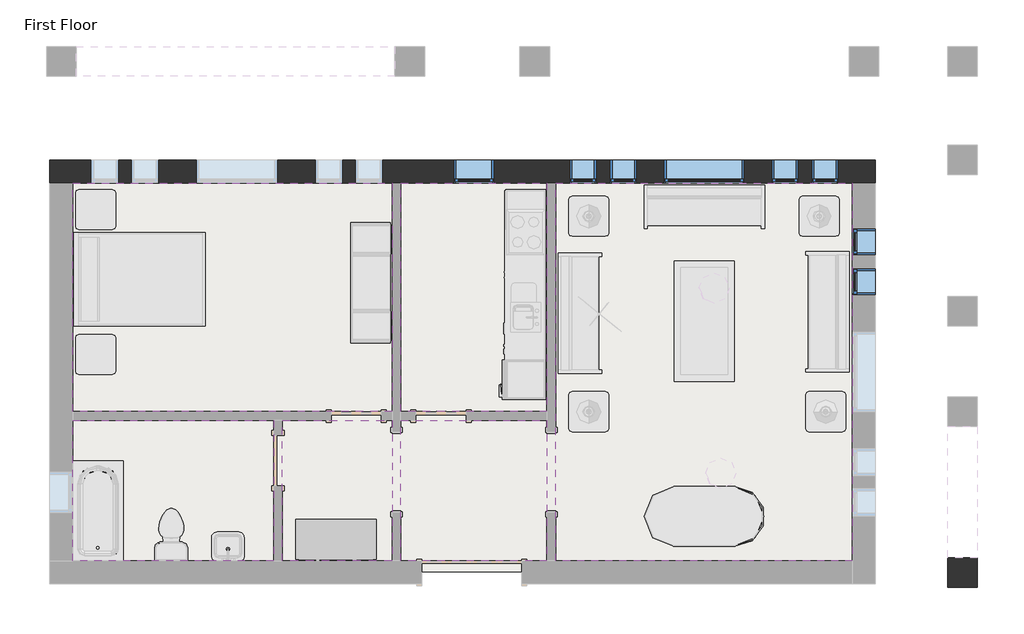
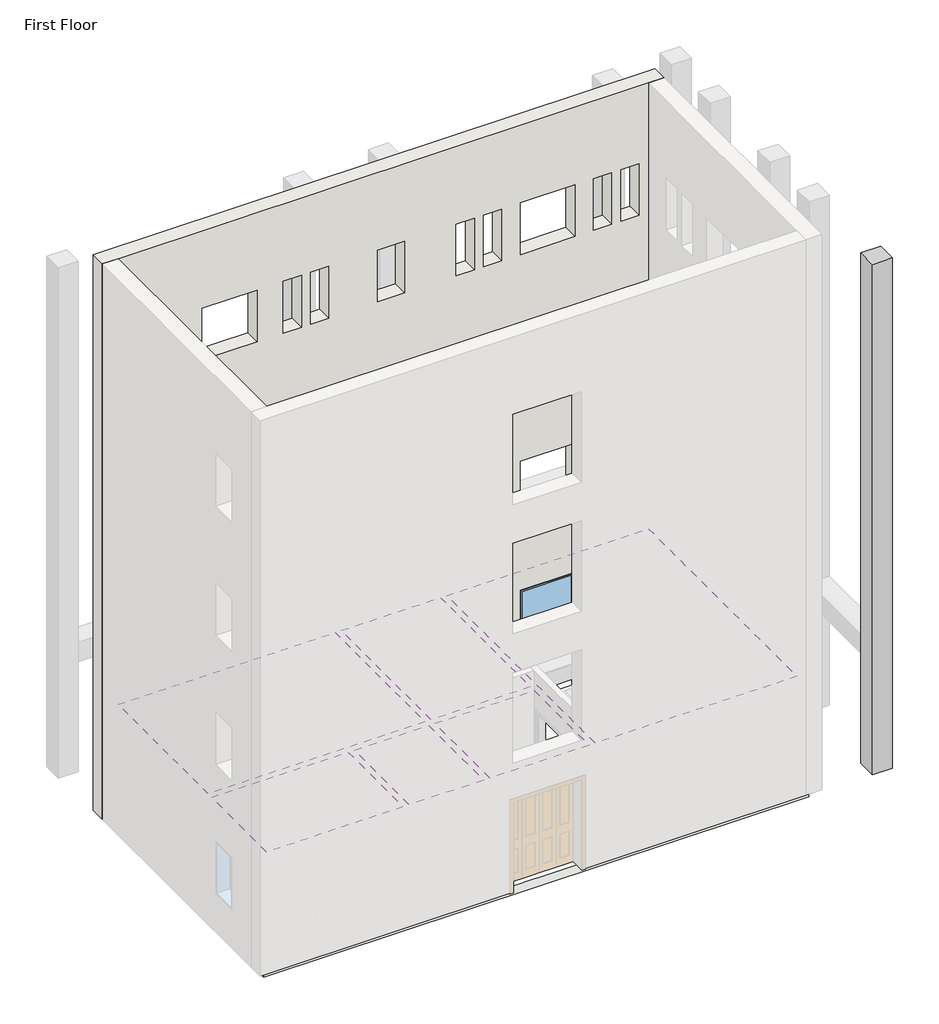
# One storey, part 2 of 3: 8 windows, 6 coverings, 1 column, 1 slab, 1 wall.
"""IFC4 building model written with IfcOpenShell, lengths in millimetres."""

from ifc_helpers import new_model, si_unit, frame, origin, place, context, project, spatial, polyline, outline, extrude, faceted_brep, transform, mapped, element, save
from components import m_fixed_0406_x_1220mm_57fee329, m_fixed_0406_x_1220mm_85c28f40, m_fixed_0610_x_1220mm_2c28ef1d, m_fixed_1220_x_1220mm_e08ff7af

model = new_model("IFC4")

# Units and contexts
model_context = context("Model", 3, world=origin())
ifc_project = project(units=[si_unit("LENGTHUNIT", "METRE", prefix="MILLI")], contexts=[model_context])

# Site, building, storey
site = spatial("IfcSite", under=ifc_project)
building = spatial("IfcBuilding", under=site)
storey = spatial("IfcBuildingStorey", under=building, Name="First Floor", Elevation=0.0)

# Column
placement = place(None, origin())
element("IfcColumn", 1, ObjectType="M_Concrete-Square-Column : 450 x 450mm", at=placement, inside=storey, context=model_context, shape_type="Brep", body=[
    faceted_brep([(-1193.3416203, -3289.8811614, 0.0), (-1193.3416203, -3739.8811614, 0.0), (-1643.3416203, -3739.8811614, 0.0), (-1643.3416203, -3289.8811614, 0.0), (-1193.3416203, -3289.8811614, 12042.0), (-1193.3416203, -3739.8811614, 12042.0), (-1193.3416203, -3739.8811614, 11742.0), (-1193.3416203, -3289.8811614, 11742.0), (-1643.3416203, -3739.8811614, 12042.0), (-1643.3416203, -3739.8811614, 11742.0), (-1643.3416203, -3289.8811614, 12042.0), (-1643.3416203, -3289.8811614, 11742.0)], [[[0, 1, 2, 3]], [[4, 5, 6, 1, 0, 7]], [[5, 8, 9, 2, 1, 6]], [[8, 10, 11, 3, 2, 9]], [[10, 4, 7, 0, 3, 11]], [[4, 10, 8, 5]]]),
])

# Coverings
element("IfcCovering", 2, ObjectType="GWB on Metal stud", at=placement, inside=storey, context=model_context, shape_type="SweptSolid", body=[
    extrude(outline(polyline([(-14935.3416203, 2406.1188386), (-10086.8416203, 2406.1188386), (-10086.8416203, -1070.3811614), (-14935.3416203, -1070.3811614), (-14935.3416203, 2406.1188386)])), frame((0.0, 0.0, 2590.0), z_axis=(0.0, 0.0, 1.0), x_axis=(1.0, 0.0, 0.0)), (0.0, 0.0, 1.0), 57.0),
])
element("IfcCovering", 3, ObjectType="GWB on Metal stud", at=placement, inside=storey, context=model_context, shape_type="SweptSolid", body=[
    extrude(outline(polyline([(-9951.3416203, -1070.3811614), (-9951.3416203, 2406.1188386), (-7733.0916203, 2406.1188386), (-7733.0916203, -1070.3811614), (-9951.3416203, -1070.3811614)])), frame((0.0, 0.0, 2590.0), z_axis=(0.0, 0.0, 1.0), x_axis=(1.0, 0.0, 0.0)), (0.0, 0.0, 1.0), 57.0),
])
element("IfcCovering", 4, ObjectType="GWB on Metal stud", at=placement, inside=storey, context=model_context, shape_type="SweptSolid", body=[
    extrude(outline(polyline([(-7597.5916203, -3339.8811614), (-7597.5916203, 2406.1188386), (-3093.3416203, 2406.1188386), (-3093.3416203, -3339.8811614), (-7597.5916203, -3339.8811614)])), frame((0.0, 0.0, 2590.0), z_axis=(0.0, 0.0, 1.0), x_axis=(1.0, 0.0, 0.0)), (0.0, 0.0, 1.0), 57.0),
])
element("IfcCovering", 5, ObjectType="GWB on Metal stud", at=placement, inside=storey, context=model_context, shape_type="SweptSolid", body=[
    extrude(outline(polyline([(-7733.0916203, -3339.8811614), (-9951.3416203, -3339.8811614), (-9951.3416203, -1205.8811614), (-7733.0916203, -1205.8811614), (-7733.0916203, -3339.8811614)])), frame((0.0, 0.0, 2590.0), z_axis=(0.0, 0.0, 1.0), x_axis=(1.0, 0.0, 0.0)), (0.0, 0.0, 1.0), 57.0),
])
element("IfcCovering", 6, ObjectType="GWB on Metal stud", at=placement, inside=storey, context=model_context, shape_type="SweptSolid", body=[
    extrude(outline(polyline([(-11887.3416203, -1205.8811614), (-11887.3416203, -3339.8811614), (-14935.3416203, -3339.8811614), (-14935.3416203, -1205.8811614), (-11887.3416203, -1205.8811614)])), frame((0.0, 0.0, 2590.0), z_axis=(0.0, 0.0, 1.0), x_axis=(1.0, 0.0, 0.0)), (0.0, 0.0, 1.0), 57.0),
])
element("IfcCovering", 7, ObjectType="GWB on Metal stud", at=placement, inside=storey, context=model_context, shape_type="SweptSolid", body=[
    extrude(outline(polyline([(-10086.8416203, -3339.8811614), (-11751.8416203, -3339.8811614), (-11751.8416203, -1205.8811614), (-10086.8416203, -1205.8811614), (-10086.8416203, -3339.8811614)])), frame((0.0, 0.0, 2590.0), z_axis=(0.0, 0.0, 1.0), x_axis=(1.0, 0.0, 0.0)), (0.0, 0.0, 1.0), 57.0),
])

# Slab
element("IfcSlab", 8, ObjectType="160mm Concrete With 50mm Metal Deck", at=placement, inside=storey, context=model_context, shape_type="SweptSolid", body=[
    extrude(outline(polyline([(-2928.3416203, 2571.1188386), (-2928.3416203, -3504.8811614), (-15100.3416203, -3504.8811614), (-15100.3416203, 2571.1188386), (-2928.3416203, 2571.1188386)])), frame((0.0, 0.0, -210.0), z_axis=(0.0, 0.0, 1.0), x_axis=(1.0, 0.0, 0.0)), (0.0, 0.0, 1.0), 210.0),
])

# Wall
element("IfcWall", 9, ObjectType="Exterior - Brick on Mtl. Stud", at=placement, inside=storey, context=model_context, shape_type="Brep", body=[
    faceted_brep([(-15285.3416203, 2406.1188386, 0.0), (-15100.3416203, 2406.1188386, 0.0), (-14935.3416203, 2406.1188386, 0.0), (-10086.8416203, 2406.1188386, 0.0), (-9951.3416203, 2406.1188386, 0.0), (-7733.0916203, 2406.1188386, 0.0), (-7597.5916203, 2406.1188386, 0.0), (-3093.3416203, 2406.1188386, 0.0), (-2928.3416203, 2406.1188386, 0.0), (-2743.3416203, 2406.1188386, 0.0), (-2743.3416203, 2406.1188386, 13107.0), (-3093.3416203, 2406.1188386, 13107.0), (-14935.3416203, 2406.1188386, 13107.0), (-15285.3416203, 2406.1188386, 13107.0), (-8537.1916203, 2406.1188386, 915.0), (-9147.1916203, 2406.1188386, 915.0), (-9147.1916203, 2406.1188386, 2135.0), (-8537.1916203, 2406.1188386, 2135.0), (-11833.3416203, 2406.1188386, 915.0), (-13053.3416203, 2406.1188386, 915.0), (-13053.3416203, 2406.1188386, 2135.0), (-11833.3416203, 2406.1188386, 2135.0), (-4735.4666203, 2406.1188386, 915.0), (-5955.4666203, 2406.1188386, 915.0), (-5955.4666203, 2406.1188386, 2135.0), (-4735.4666203, 2406.1188386, 2135.0), (-14247.3416203, 2406.1188386, 915.0), (-14653.3416203, 2406.1188386, 915.0), (-14653.3416203, 2406.1188386, 2135.0), (-14247.3416203, 2406.1188386, 2135.0), (-13637.3416203, 2406.1188386, 915.0), (-14043.3416203, 2406.1188386, 915.0), (-14043.3416203, 2406.1188386, 2135.0), (-13637.3416203, 2406.1188386, 2135.0), (-11249.3416203, 2406.1188386, 915.0), (-11249.3416203, 2406.1188386, 2135.0), (-10843.3416203, 2406.1188386, 2135.0), (-10843.3416203, 2406.1188386, 915.0), (-10639.3416203, 2406.1188386, 915.0), (-10639.3416203, 2406.1188386, 2135.0), (-10233.3416203, 2406.1188386, 2135.0), (-10233.3416203, 2406.1188386, 915.0), (-6370.3416203, 2406.1188386, 915.0), (-6776.3416203, 2406.1188386, 915.0), (-6776.3416203, 2406.1188386, 2135.0), (-6370.3416203, 2406.1188386, 2135.0), (-6980.3416203, 2406.1188386, 915.0), (-7386.3416203, 2406.1188386, 915.0), (-7386.3416203, 2406.1188386, 2135.0), (-6980.3416203, 2406.1188386, 2135.0), (-4320.5916203, 2406.1188386, 915.0), (-4320.5916203, 2406.1188386, 2135.0), (-3914.5916203, 2406.1188386, 2135.0), (-3914.5916203, 2406.1188386, 915.0), (-3710.5916203, 2406.1188386, 915.0), (-3710.5916203, 2406.1188386, 2135.0), (-3304.5916203, 2406.1188386, 2135.0), (-3304.5916203, 2406.1188386, 915.0), (-4320.5916203, 2406.1188386, 10059.0), (-4320.5916203, 2406.1188386, 11279.0), (-3914.5916203, 2406.1188386, 11279.0), (-3914.5916203, 2406.1188386, 10059.0), (-3710.5916203, 2406.1188386, 10059.0), (-3710.5916203, 2406.1188386, 11279.0), (-3304.5916203, 2406.1188386, 11279.0), (-3304.5916203, 2406.1188386, 10059.0), (-6370.3416203, 2406.1188386, 10059.0), (-6776.3416203, 2406.1188386, 10059.0), (-6776.3416203, 2406.1188386, 11279.0), (-6370.3416203, 2406.1188386, 11279.0), (-6980.3416203, 2406.1188386, 10059.0), (-7386.3416203, 2406.1188386, 10059.0), (-7386.3416203, 2406.1188386, 11279.0), (-6980.3416203, 2406.1188386, 11279.0), (-11249.3416203, 2406.1188386, 10059.0), (-11249.3416203, 2406.1188386, 11279.0), (-10843.3416203, 2406.1188386, 11279.0), (-10843.3416203, 2406.1188386, 10059.0), (-10639.3416203, 2406.1188386, 10059.0), (-10639.3416203, 2406.1188386, 11279.0), (-10233.3416203, 2406.1188386, 11279.0), (-10233.3416203, 2406.1188386, 10059.0), (-13637.3416203, 2406.1188386, 10059.0), (-14043.3416203, 2406.1188386, 10059.0), (-14043.3416203, 2406.1188386, 11279.0), (-13637.3416203, 2406.1188386, 11279.0), (-14247.3416203, 2406.1188386, 10059.0), (-14653.3416203, 2406.1188386, 10059.0), (-14653.3416203, 2406.1188386, 11279.0), (-14247.3416203, 2406.1188386, 11279.0), (-4735.4666203, 2406.1188386, 10059.0), (-5955.4666203, 2406.1188386, 10059.0), (-5955.4666203, 2406.1188386, 11279.0), (-4735.4666203, 2406.1188386, 11279.0), (-11833.3416203, 2406.1188386, 10059.0), (-13053.3416203, 2406.1188386, 10059.0), (-13053.3416203, 2406.1188386, 11279.0), (-11833.3416203, 2406.1188386, 11279.0), (-8537.1916203, 2406.1188386, 10059.0), (-9147.1916203, 2406.1188386, 10059.0), (-9147.1916203, 2406.1188386, 11279.0), (-8537.1916203, 2406.1188386, 11279.0), (-4320.5916203, 2406.1188386, 3963.0), (-4320.5916203, 2406.1188386, 5183.0), (-3914.5916203, 2406.1188386, 5183.0), (-3914.5916203, 2406.1188386, 3963.0), (-3710.5916203, 2406.1188386, 3963.0), (-3710.5916203, 2406.1188386, 5183.0), (-3304.5916203, 2406.1188386, 5183.0), (-3304.5916203, 2406.1188386, 3963.0), (-6370.3416203, 2406.1188386, 3963.0), (-6776.3416203, 2406.1188386, 3963.0), (-6776.3416203, 2406.1188386, 5183.0), (-6370.3416203, 2406.1188386, 5183.0), (-6980.3416203, 2406.1188386, 3963.0), (-7386.3416203, 2406.1188386, 3963.0), (-7386.3416203, 2406.1188386, 5183.0), (-6980.3416203, 2406.1188386, 5183.0), (-11249.3416203, 2406.1188386, 3963.0), (-11249.3416203, 2406.1188386, 5183.0), (-10843.3416203, 2406.1188386, 5183.0), (-10843.3416203, 2406.1188386, 3963.0), (-10639.3416203, 2406.1188386, 3963.0), (-10639.3416203, 2406.1188386, 5183.0), (-10233.3416203, 2406.1188386, 5183.0), (-10233.3416203, 2406.1188386, 3963.0), (-13637.3416203, 2406.1188386, 3963.0), (-14043.3416203, 2406.1188386, 3963.0), (-14043.3416203, 2406.1188386, 5183.0), (-13637.3416203, 2406.1188386, 5183.0), (-14247.3416203, 2406.1188386, 3963.0), (-14653.3416203, 2406.1188386, 3963.0), (-14653.3416203, 2406.1188386, 5183.0), (-14247.3416203, 2406.1188386, 5183.0), (-4735.4666203, 2406.1188386, 3963.0), (-5955.4666203, 2406.1188386, 3963.0), (-5955.4666203, 2406.1188386, 5183.0), (-4735.4666203, 2406.1188386, 5183.0), (-11833.3416203, 2406.1188386, 3963.0), (-13053.3416203, 2406.1188386, 3963.0), (-13053.3416203, 2406.1188386, 5183.0), (-11833.3416203, 2406.1188386, 5183.0), (-8537.1916203, 2406.1188386, 3963.0), (-9147.1916203, 2406.1188386, 3963.0), (-9147.1916203, 2406.1188386, 5183.0), (-8537.1916203, 2406.1188386, 5183.0), (-4320.5916203, 2406.1188386, 7011.0), (-4320.5916203, 2406.1188386, 8231.0), (-3914.5916203, 2406.1188386, 8231.0), (-3914.5916203, 2406.1188386, 7011.0), (-3710.5916203, 2406.1188386, 7011.0), (-3710.5916203, 2406.1188386, 8231.0), (-3304.5916203, 2406.1188386, 8231.0), (-3304.5916203, 2406.1188386, 7011.0), (-6370.3416203, 2406.1188386, 7011.0), (-6776.3416203, 2406.1188386, 7011.0), (-6776.3416203, 2406.1188386, 8231.0), (-6370.3416203, 2406.1188386, 8231.0), (-6980.3416203, 2406.1188386, 7011.0), (-7386.3416203, 2406.1188386, 7011.0), (-7386.3416203, 2406.1188386, 8231.0), (-6980.3416203, 2406.1188386, 8231.0), (-11249.3416203, 2406.1188386, 7011.0), (-11249.3416203, 2406.1188386, 8231.0), (-10843.3416203, 2406.1188386, 8231.0), (-10843.3416203, 2406.1188386, 7011.0), (-10639.3416203, 2406.1188386, 7011.0), (-10639.3416203, 2406.1188386, 8231.0), (-10233.3416203, 2406.1188386, 8231.0), (-10233.3416203, 2406.1188386, 7011.0), (-13637.3416203, 2406.1188386, 7011.0), (-14043.3416203, 2406.1188386, 7011.0), (-14043.3416203, 2406.1188386, 8231.0), (-13637.3416203, 2406.1188386, 8231.0), (-14247.3416203, 2406.1188386, 7011.0), (-14653.3416203, 2406.1188386, 7011.0), (-14653.3416203, 2406.1188386, 8231.0), (-14247.3416203, 2406.1188386, 8231.0), (-4735.4666203, 2406.1188386, 7011.0), (-5955.4666203, 2406.1188386, 7011.0), (-5955.4666203, 2406.1188386, 8231.0), (-4735.4666203, 2406.1188386, 8231.0), (-11833.3416203, 2406.1188386, 7011.0), (-13053.3416203, 2406.1188386, 7011.0), (-13053.3416203, 2406.1188386, 8231.0), (-11833.3416203, 2406.1188386, 8231.0), (-8537.1916203, 2406.1188386, 7011.0), (-9147.1916203, 2406.1188386, 7011.0), (-9147.1916203, 2406.1188386, 8231.0), (-8537.1916203, 2406.1188386, 8231.0), (-15285.3416203, 2756.1188386, 0.0), (-15285.3416203, 2756.1188386, 13107.0), (-2743.3416203, 2756.1188386, 13107.0), (-2743.3416203, 2756.1188386, 0.0), (-2928.3416203, 2756.1188386, 0.0), (-15100.3416203, 2756.1188386, 0.0), (-8537.1916203, 2756.1188386, 915.0), (-8537.1916203, 2756.1188386, 2135.0), (-9147.1916203, 2756.1188386, 2135.0), (-9147.1916203, 2756.1188386, 915.0), (-11833.3416203, 2756.1188386, 915.0), (-11833.3416203, 2756.1188386, 2135.0), (-13053.3416203, 2756.1188386, 2135.0), (-13053.3416203, 2756.1188386, 915.0), (-4735.4666203, 2756.1188386, 915.0), (-4735.4666203, 2756.1188386, 2135.0), (-5955.4666203, 2756.1188386, 2135.0), (-5955.4666203, 2756.1188386, 915.0), (-14247.3416203, 2756.1188386, 915.0), (-14247.3416203, 2756.1188386, 2135.0), (-14653.3416203, 2756.1188386, 2135.0), (-14653.3416203, 2756.1188386, 915.0), (-13637.3416203, 2756.1188386, 915.0), (-13637.3416203, 2756.1188386, 2135.0), (-14043.3416203, 2756.1188386, 2135.0), (-14043.3416203, 2756.1188386, 915.0), (-11249.3416203, 2756.1188386, 915.0), (-10843.3416203, 2756.1188386, 915.0), (-10843.3416203, 2756.1188386, 2135.0), (-11249.3416203, 2756.1188386, 2135.0), (-10639.3416203, 2756.1188386, 915.0), (-10233.3416203, 2756.1188386, 915.0), (-10233.3416203, 2756.1188386, 2135.0), (-10639.3416203, 2756.1188386, 2135.0), (-6370.3416203, 2756.1188386, 915.0), (-6370.3416203, 2756.1188386, 2135.0), (-6776.3416203, 2756.1188386, 2135.0), (-6776.3416203, 2756.1188386, 915.0), (-6980.3416203, 2756.1188386, 915.0), (-6980.3416203, 2756.1188386, 2135.0), (-7386.3416203, 2756.1188386, 2135.0), (-7386.3416203, 2756.1188386, 915.0), (-4320.5916203, 2756.1188386, 915.0), (-3914.5916203, 2756.1188386, 915.0), (-3914.5916203, 2756.1188386, 2135.0), (-4320.5916203, 2756.1188386, 2135.0), (-3710.5916203, 2756.1188386, 915.0), (-3304.5916203, 2756.1188386, 915.0), (-3304.5916203, 2756.1188386, 2135.0), (-3710.5916203, 2756.1188386, 2135.0), (-4320.5916203, 2756.1188386, 10059.0), (-3914.5916203, 2756.1188386, 10059.0), (-3914.5916203, 2756.1188386, 11279.0), (-4320.5916203, 2756.1188386, 11279.0), (-3710.5916203, 2756.1188386, 10059.0), (-3304.5916203, 2756.1188386, 10059.0), (-3304.5916203, 2756.1188386, 11279.0), (-3710.5916203, 2756.1188386, 11279.0), (-6370.3416203, 2756.1188386, 10059.0), (-6370.3416203, 2756.1188386, 11279.0), (-6776.3416203, 2756.1188386, 11279.0), (-6776.3416203, 2756.1188386, 10059.0), (-6980.3416203, 2756.1188386, 10059.0), (-6980.3416203, 2756.1188386, 11279.0), (-7386.3416203, 2756.1188386, 11279.0), (-7386.3416203, 2756.1188386, 10059.0), (-11249.3416203, 2756.1188386, 10059.0), (-10843.3416203, 2756.1188386, 10059.0), (-10843.3416203, 2756.1188386, 11279.0), (-11249.3416203, 2756.1188386, 11279.0), (-10639.3416203, 2756.1188386, 10059.0), (-10233.3416203, 2756.1188386, 10059.0), (-10233.3416203, 2756.1188386, 11279.0), (-10639.3416203, 2756.1188386, 11279.0), (-13637.3416203, 2756.1188386, 10059.0), (-13637.3416203, 2756.1188386, 11279.0), (-14043.3416203, 2756.1188386, 11279.0), (-14043.3416203, 2756.1188386, 10059.0), (-14247.3416203, 2756.1188386, 10059.0), (-14247.3416203, 2756.1188386, 11279.0), (-14653.3416203, 2756.1188386, 11279.0), (-14653.3416203, 2756.1188386, 10059.0), (-4735.4666203, 2756.1188386, 10059.0), (-4735.4666203, 2756.1188386, 11279.0), (-5955.4666203, 2756.1188386, 11279.0), (-5955.4666203, 2756.1188386, 10059.0), (-11833.3416203, 2756.1188386, 10059.0), (-11833.3416203, 2756.1188386, 11279.0), (-13053.3416203, 2756.1188386, 11279.0), (-13053.3416203, 2756.1188386, 10059.0), (-8537.1916203, 2756.1188386, 10059.0), (-8537.1916203, 2756.1188386, 11279.0), (-9147.1916203, 2756.1188386, 11279.0), (-9147.1916203, 2756.1188386, 10059.0), (-4320.5916203, 2756.1188386, 3963.0), (-3914.5916203, 2756.1188386, 3963.0), (-3914.5916203, 2756.1188386, 5183.0), (-4320.5916203, 2756.1188386, 5183.0), (-3710.5916203, 2756.1188386, 3963.0), (-3304.5916203, 2756.1188386, 3963.0), (-3304.5916203, 2756.1188386, 5183.0), (-3710.5916203, 2756.1188386, 5183.0), (-6370.3416203, 2756.1188386, 3963.0), (-6370.3416203, 2756.1188386, 5183.0), (-6776.3416203, 2756.1188386, 5183.0), (-6776.3416203, 2756.1188386, 3963.0), (-6980.3416203, 2756.1188386, 3963.0), (-6980.3416203, 2756.1188386, 5183.0), (-7386.3416203, 2756.1188386, 5183.0), (-7386.3416203, 2756.1188386, 3963.0), (-11249.3416203, 2756.1188386, 3963.0), (-10843.3416203, 2756.1188386, 3963.0), (-10843.3416203, 2756.1188386, 5183.0), (-11249.3416203, 2756.1188386, 5183.0), (-10639.3416203, 2756.1188386, 3963.0), (-10233.3416203, 2756.1188386, 3963.0), (-10233.3416203, 2756.1188386, 5183.0), (-10639.3416203, 2756.1188386, 5183.0), (-13637.3416203, 2756.1188386, 3963.0), (-13637.3416203, 2756.1188386, 5183.0), (-14043.3416203, 2756.1188386, 5183.0), (-14043.3416203, 2756.1188386, 3963.0), (-14247.3416203, 2756.1188386, 3963.0), (-14247.3416203, 2756.1188386, 5183.0), (-14653.3416203, 2756.1188386, 5183.0), (-14653.3416203, 2756.1188386, 3963.0), (-4735.4666203, 2756.1188386, 3963.0), (-4735.4666203, 2756.1188386, 5183.0), (-5955.4666203, 2756.1188386, 5183.0), (-5955.4666203, 2756.1188386, 3963.0), (-11833.3416203, 2756.1188386, 3963.0), (-11833.3416203, 2756.1188386, 5183.0), (-13053.3416203, 2756.1188386, 5183.0), (-13053.3416203, 2756.1188386, 3963.0), (-8537.1916203, 2756.1188386, 3963.0), (-8537.1916203, 2756.1188386, 5183.0), (-9147.1916203, 2756.1188386, 5183.0), (-9147.1916203, 2756.1188386, 3963.0), (-4320.5916203, 2756.1188386, 7011.0), (-3914.5916203, 2756.1188386, 7011.0), (-3914.5916203, 2756.1188386, 8231.0), (-4320.5916203, 2756.1188386, 8231.0), (-3710.5916203, 2756.1188386, 7011.0), (-3304.5916203, 2756.1188386, 7011.0), (-3304.5916203, 2756.1188386, 8231.0), (-3710.5916203, 2756.1188386, 8231.0), (-6370.3416203, 2756.1188386, 7011.0), (-6370.3416203, 2756.1188386, 8231.0), (-6776.3416203, 2756.1188386, 8231.0), (-6776.3416203, 2756.1188386, 7011.0), (-6980.3416203, 2756.1188386, 7011.0), (-6980.3416203, 2756.1188386, 8231.0), (-7386.3416203, 2756.1188386, 8231.0), (-7386.3416203, 2756.1188386, 7011.0), (-11249.3416203, 2756.1188386, 7011.0), (-10843.3416203, 2756.1188386, 7011.0), (-10843.3416203, 2756.1188386, 8231.0), (-11249.3416203, 2756.1188386, 8231.0), (-10639.3416203, 2756.1188386, 7011.0), (-10233.3416203, 2756.1188386, 7011.0), (-10233.3416203, 2756.1188386, 8231.0), (-10639.3416203, 2756.1188386, 8231.0), (-13637.3416203, 2756.1188386, 7011.0), (-13637.3416203, 2756.1188386, 8231.0), (-14043.3416203, 2756.1188386, 8231.0), (-14043.3416203, 2756.1188386, 7011.0), (-14247.3416203, 2756.1188386, 7011.0), (-14247.3416203, 2756.1188386, 8231.0), (-14653.3416203, 2756.1188386, 8231.0), (-14653.3416203, 2756.1188386, 7011.0), (-4735.4666203, 2756.1188386, 7011.0), (-4735.4666203, 2756.1188386, 8231.0), (-5955.4666203, 2756.1188386, 8231.0), (-5955.4666203, 2756.1188386, 7011.0), (-11833.3416203, 2756.1188386, 7011.0), (-11833.3416203, 2756.1188386, 8231.0), (-13053.3416203, 2756.1188386, 8231.0), (-13053.3416203, 2756.1188386, 7011.0), (-8537.1916203, 2756.1188386, 7011.0), (-8537.1916203, 2756.1188386, 8231.0), (-9147.1916203, 2756.1188386, 8231.0), (-9147.1916203, 2756.1188386, 7011.0), (-2743.3416203, 2571.1188386, 0.0), (-15285.3416203, 2571.1188386, 0.0), (-15100.3416203, 2571.1188386, 0.0), (-2928.3416203, 2571.1188386, 0.0)], [[[0, 1, 2, 3, 4, 5, 6, 7, 8, 9, 10, 11, 12, 13], [14, 15, 16, 17], [18, 19, 20, 21], [22, 23, 24, 25], [26, 27, 28, 29], [30, 31, 32, 33], [34, 35, 36, 37], [38, 39, 40, 41], [42, 43, 44, 45], [46, 47, 48, 49], [50, 51, 52, 53], [54, 55, 56, 57], [58, 59, 60, 61], [62, 63, 64, 65], [66, 67, 68, 69], [70, 71, 72, 73], [74, 75, 76, 77], [78, 79, 80, 81], [82, 83, 84, 85], [86, 87, 88, 89], [90, 91, 92, 93], [94, 95, 96, 97], [98, 99, 100, 101], [102, 103, 104, 105], [106, 107, 108, 109], [110, 111, 112, 113], [114, 115, 116, 117], [118, 119, 120, 121], [122, 123, 124, 125], [126, 127, 128, 129], [130, 131, 132, 133], [134, 135, 136, 137], [138, 139, 140, 141], [142, 143, 144, 145], [146, 147, 148, 149], [150, 151, 152, 153], [154, 155, 156, 157], [158, 159, 160, 161], [162, 163, 164, 165], [166, 167, 168, 169], [170, 171, 172, 173], [174, 175, 176, 177], [178, 179, 180, 181], [182, 183, 184, 185], [186, 187, 188, 189]], [[190, 191, 192, 193, 194, 195], [196, 197, 198, 199], [200, 201, 202, 203], [204, 205, 206, 207], [208, 209, 210, 211], [212, 213, 214, 215], [216, 217, 218, 219], [220, 221, 222, 223], [224, 225, 226, 227], [228, 229, 230, 231], [232, 233, 234, 235], [236, 237, 238, 239], [240, 241, 242, 243], [244, 245, 246, 247], [248, 249, 250, 251], [252, 253, 254, 255], [256, 257, 258, 259], [260, 261, 262, 263], [264, 265, 266, 267], [268, 269, 270, 271], [272, 273, 274, 275], [276, 277, 278, 279], [280, 281, 282, 283], [284, 285, 286, 287], [288, 289, 290, 291], [292, 293, 294, 295], [296, 297, 298, 299], [300, 301, 302, 303], [304, 305, 306, 307], [308, 309, 310, 311], [312, 313, 314, 315], [316, 317, 318, 319], [320, 321, 322, 323], [324, 325, 326, 327], [328, 329, 330, 331], [332, 333, 334, 335], [336, 337, 338, 339], [340, 341, 342, 343], [344, 345, 346, 347], [348, 349, 350, 351], [352, 353, 354, 355], [356, 357, 358, 359], [360, 361, 362, 363], [364, 365, 366, 367], [368, 369, 370, 371]], [[13, 12, 11, 10, 192, 191]], [[10, 9, 372, 193, 192]], [[0, 13, 191, 190, 373]], [[197, 196, 14, 17]], [[198, 197, 17, 16]], [[199, 198, 16, 15]], [[196, 199, 15, 14]], [[201, 200, 18, 21]], [[202, 201, 21, 20]], [[203, 202, 20, 19]], [[200, 203, 19, 18]], [[205, 204, 22, 25]], [[206, 205, 25, 24]], [[207, 206, 24, 23]], [[204, 207, 23, 22]], [[209, 208, 26, 29]], [[210, 209, 29, 28]], [[211, 210, 28, 27]], [[208, 211, 27, 26]], [[213, 212, 30, 33]], [[214, 213, 33, 32]], [[215, 214, 32, 31]], [[212, 215, 31, 30]], [[35, 34, 216, 219]], [[36, 35, 219, 218]], [[37, 36, 218, 217]], [[34, 37, 217, 216]], [[39, 38, 220, 223]], [[40, 39, 223, 222]], [[41, 40, 222, 221]], [[38, 41, 221, 220]], [[225, 224, 42, 45]], [[226, 225, 45, 44]], [[227, 226, 44, 43]], [[224, 227, 43, 42]], [[229, 228, 46, 49]], [[230, 229, 49, 48]], [[231, 230, 48, 47]], [[228, 231, 47, 46]], [[51, 50, 232, 235]], [[52, 51, 235, 234]], [[53, 52, 234, 233]], [[50, 53, 233, 232]], [[55, 54, 236, 239]], [[56, 55, 239, 238]], [[57, 56, 238, 237]], [[54, 57, 237, 236]], [[1, 0, 373, 374]], [[373, 190, 195, 374]], [[9, 8, 375, 372]], [[195, 194, 375, 374]], [[194, 193, 372, 375]], [[8, 7, 6, 5, 4, 3, 2, 1, 374, 375]], [[59, 58, 240, 243]], [[60, 59, 243, 242]], [[61, 60, 242, 241]], [[58, 61, 241, 240]], [[63, 62, 244, 247]], [[64, 63, 247, 246]], [[65, 64, 246, 245]], [[62, 65, 245, 244]], [[249, 248, 66, 69]], [[250, 249, 69, 68]], [[251, 250, 68, 67]], [[248, 251, 67, 66]], [[253, 252, 70, 73]], [[254, 253, 73, 72]], [[255, 254, 72, 71]], [[252, 255, 71, 70]], [[75, 74, 256, 259]], [[76, 75, 259, 258]], [[77, 76, 258, 257]], [[74, 77, 257, 256]], [[79, 78, 260, 263]], [[80, 79, 263, 262]], [[81, 80, 262, 261]], [[78, 81, 261, 260]], [[265, 264, 82, 85]], [[266, 265, 85, 84]], [[267, 266, 84, 83]], [[264, 267, 83, 82]], [[269, 268, 86, 89]], [[270, 269, 89, 88]], [[271, 270, 88, 87]], [[268, 271, 87, 86]], [[273, 272, 90, 93]], [[274, 273, 93, 92]], [[275, 274, 92, 91]], [[272, 275, 91, 90]], [[277, 276, 94, 97]], [[278, 277, 97, 96]], [[279, 278, 96, 95]], [[276, 279, 95, 94]], [[281, 280, 98, 101]], [[282, 281, 101, 100]], [[283, 282, 100, 99]], [[280, 283, 99, 98]], [[103, 102, 284, 287]], [[104, 103, 287, 286]], [[105, 104, 286, 285]], [[102, 105, 285, 284]], [[107, 106, 288, 291]], [[108, 107, 291, 290]], [[109, 108, 290, 289]], [[106, 109, 289, 288]], [[293, 292, 110, 113]], [[294, 293, 113, 112]], [[295, 294, 112, 111]], [[292, 295, 111, 110]], [[297, 296, 114, 117]], [[298, 297, 117, 116]], [[299, 298, 116, 115]], [[296, 299, 115, 114]], [[119, 118, 300, 303]], [[120, 119, 303, 302]], [[121, 120, 302, 301]], [[118, 121, 301, 300]], [[123, 122, 304, 307]], [[124, 123, 307, 306]], [[125, 124, 306, 305]], [[122, 125, 305, 304]], [[309, 308, 126, 129]], [[310, 309, 129, 128]], [[311, 310, 128, 127]], [[308, 311, 127, 126]], [[313, 312, 130, 133]], [[314, 313, 133, 132]], [[315, 314, 132, 131]], [[312, 315, 131, 130]], [[317, 316, 134, 137]], [[318, 317, 137, 136]], [[319, 318, 136, 135]], [[316, 319, 135, 134]], [[321, 320, 138, 141]], [[322, 321, 141, 140]], [[323, 322, 140, 139]], [[320, 323, 139, 138]], [[325, 324, 142, 145]], [[326, 325, 145, 144]], [[327, 326, 144, 143]], [[324, 327, 143, 142]], [[147, 146, 328, 331]], [[148, 147, 331, 330]], [[149, 148, 330, 329]], [[146, 149, 329, 328]], [[151, 150, 332, 335]], [[152, 151, 335, 334]], [[153, 152, 334, 333]], [[150, 153, 333, 332]], [[337, 336, 154, 157]], [[338, 337, 157, 156]], [[339, 338, 156, 155]], [[336, 339, 155, 154]], [[341, 340, 158, 161]], [[342, 341, 161, 160]], [[343, 342, 160, 159]], [[340, 343, 159, 158]], [[163, 162, 344, 347]], [[164, 163, 347, 346]], [[165, 164, 346, 345]], [[162, 165, 345, 344]], [[167, 166, 348, 351]], [[168, 167, 351, 350]], [[169, 168, 350, 349]], [[166, 169, 349, 348]], [[353, 352, 170, 173]], [[354, 353, 173, 172]], [[355, 354, 172, 171]], [[352, 355, 171, 170]], [[357, 356, 174, 177]], [[358, 357, 177, 176]], [[359, 358, 176, 175]], [[356, 359, 175, 174]], [[361, 360, 178, 181]], [[362, 361, 181, 180]], [[363, 362, 180, 179]], [[360, 363, 179, 178]], [[365, 364, 182, 185]], [[366, 365, 185, 184]], [[367, 366, 184, 183]], [[364, 367, 183, 182]], [[369, 368, 186, 189]], [[370, 369, 189, 188]], [[371, 370, 188, 187]], [[368, 371, 187, 186]]]),
])

# Windows
m_fixed_0406_x_1220mm_shape = m_fixed_0406_x_1220mm_57fee329(model_context)
element("IfcWindow", 10, ObjectType="M_Fixed : 0406 x 1220mm", at=placement, inside=storey, context=model_context, shape_type="MappedRepresentation", body=[
    mapped(m_fixed_0406_x_1220mm_shape, transform((-7183.3416203, 2594.1188386, 0.0), x_axis=(-1.0, 0.0, 0.0), y_axis=(0.0, -1.0, 0.0), z_axis=(0.0, 0.0, 1.0))),
])
element("IfcWindow", 11, ObjectType="M_Fixed : 0406 x 1220mm", at=placement, inside=storey, context=model_context, shape_type="MappedRepresentation", body=[
    mapped(m_fixed_0406_x_1220mm_shape, transform((-6573.3416203, 2594.1188386, 0.0), x_axis=(-1.0, 0.0, 0.0), y_axis=(0.0, -1.0, 0.0), z_axis=(0.0, 0.0, 1.0))),
])
element("IfcWindow", 12, ObjectType="M_Fixed : 0406 x 1220mm", at=placement, inside=storey, context=model_context, shape_type="MappedRepresentation", body=[
    mapped(m_fixed_0406_x_1220mm_shape, transform((-2905.3416203, 1514.1188386, 0.0), x_axis=(0.0, 1.0, 0.0), y_axis=(-1.0, 0.0, 0.0), z_axis=(0.0, 0.0, 1.0))),
])
element("IfcWindow", 13, ObjectType="M_Fixed : 0406 x 1220mm", at=placement, inside=storey, context=model_context, shape_type="MappedRepresentation", body=[
    mapped(m_fixed_0406_x_1220mm_shape, transform((-2905.3416203, 904.1188386, 0.0), x_axis=(0.0, 1.0, 0.0), y_axis=(-1.0, 0.0, 0.0), z_axis=(0.0, 0.0, 1.0))),
])
m_fixed_0406_x_1220mm_2_shape = m_fixed_0406_x_1220mm_85c28f40(model_context)
element("IfcWindow", 14, ObjectType="M_Fixed : 0406 x 1220mm", at=placement, inside=storey, context=model_context, shape_type="MappedRepresentation", body=[
    mapped(m_fixed_0406_x_1220mm_2_shape, transform((-3507.5916203, 2594.1188386, 0.0), x_axis=(1.0, 0.0, 0.0), y_axis=(0.0, 1.0, 0.0), z_axis=(0.0, 0.0, 1.0))),
])
element("IfcWindow", 15, ObjectType="M_Fixed : 0406 x 1220mm", at=placement, inside=storey, context=model_context, shape_type="MappedRepresentation", body=[
    mapped(m_fixed_0406_x_1220mm_2_shape, transform((-4117.5916203, 2594.1188386, 0.0), x_axis=(1.0, 0.0, 0.0), y_axis=(0.0, 1.0, 0.0), z_axis=(0.0, 0.0, 1.0))),
])
m_fixed_0610_x_1220mm_shape = m_fixed_0610_x_1220mm_2c28ef1d(model_context)
element("IfcWindow", 16, ObjectType="M_Fixed : 0610 x 1220mm", at=placement, inside=storey, context=model_context, shape_type="MappedRepresentation", body=[
    mapped(m_fixed_0610_x_1220mm_shape, transform((-8842.1916203, 2594.1188386, 0.0), x_axis=(-1.0, 0.0, 0.0), y_axis=(0.0, -1.0, 0.0), z_axis=(0.0, 0.0, 1.0))),
])
m_fixed_1220_x_1220mm_shape = m_fixed_1220_x_1220mm_e08ff7af(model_context)
element("IfcWindow", 17, ObjectType="M_Fixed : 1220 x 1220mm", at=placement, inside=storey, context=model_context, shape_type="MappedRepresentation", body=[
    mapped(m_fixed_1220_x_1220mm_shape, transform((-5345.4666203, 2594.1188386, 0.0), x_axis=(-1.0, 0.0, 0.0), y_axis=(0.0, -1.0, 0.0), z_axis=(0.0, 0.0, 1.0))),
])

save(model, "model.ifc")
